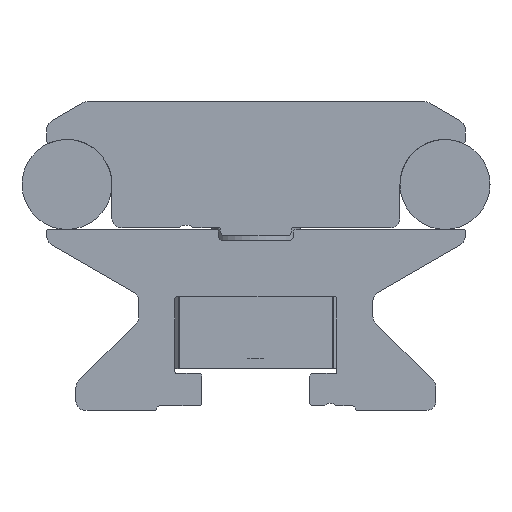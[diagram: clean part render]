
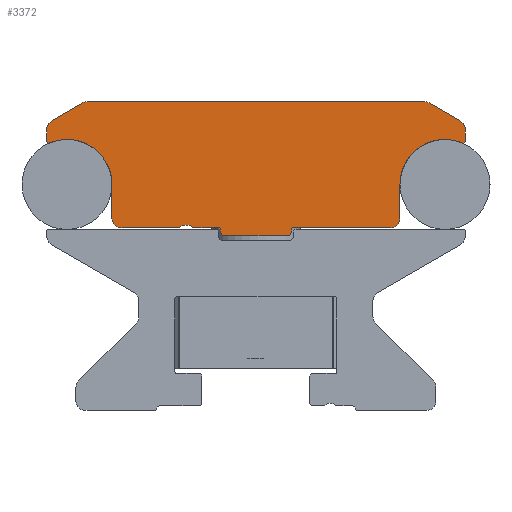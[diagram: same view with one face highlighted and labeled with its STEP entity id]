
A CAD part, left-side view. The second image highlights one B-rep face of the part: STEP entity #3372.
In plain terms, the highlighted planar face has unit normal (-1, 0, 0).
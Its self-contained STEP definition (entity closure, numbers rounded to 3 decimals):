
#116=CIRCLE('',#3649,0.5);
#119=CIRCLE('',#3654,0.5);
#121=CIRCLE('',#3659,1.);
#130=CIRCLE('',#3670,1.);
#132=CIRCLE('',#3674,1.);
#134=CIRCLE('',#3678,0.2);
#136=CIRCLE('',#3681,5.);
#138=CIRCLE('',#3685,1.);
#140=CIRCLE('',#3689,1.);
#148=CIRCLE('',#3699,0.2);
#152=CIRCLE('',#3709,0.2);
#161=CIRCLE('',#3720,1.);
#163=CIRCLE('',#3724,5.);
#165=CIRCLE('',#3727,0.2);
#167=CIRCLE('',#3731,1.);
#745=ORIENTED_EDGE('',*,*,#1532,.T.);
#746=ORIENTED_EDGE('',*,*,#1543,.T.);
#747=ORIENTED_EDGE('',*,*,#1546,.T.);
#748=ORIENTED_EDGE('',*,*,#1549,.T.);
#749=ORIENTED_EDGE('',*,*,#1552,.T.);
#750=ORIENTED_EDGE('',*,*,#1555,.T.);
#751=ORIENTED_EDGE('',*,*,#1558,.T.);
#752=ORIENTED_EDGE('',*,*,#1561,.T.);
#753=ORIENTED_EDGE('',*,*,#1564,.T.);
#754=ORIENTED_EDGE('',*,*,#1567,.T.);
#755=ORIENTED_EDGE('',*,*,#1570,.T.);
#756=ORIENTED_EDGE('',*,*,#1573,.T.);
#757=ORIENTED_EDGE('',*,*,#1579,.T.);
#758=ORIENTED_EDGE('',*,*,#1585,.T.);
#759=ORIENTED_EDGE('',*,*,#1514,.T.);
#760=ORIENTED_EDGE('',*,*,#1517,.T.);
#761=ORIENTED_EDGE('',*,*,#1592,.T.);
#762=ORIENTED_EDGE('',*,*,#1523,.T.);
#763=ORIENTED_EDGE('',*,*,#1597,.T.);
#764=ORIENTED_EDGE('',*,*,#1600,.T.);
#765=ORIENTED_EDGE('',*,*,#1607,.T.);
#766=ORIENTED_EDGE('',*,*,#1613,.T.);
#767=ORIENTED_EDGE('',*,*,#1616,.T.);
#768=ORIENTED_EDGE('',*,*,#1619,.T.);
#769=ORIENTED_EDGE('',*,*,#1622,.T.);
#770=ORIENTED_EDGE('',*,*,#1625,.T.);
#771=ORIENTED_EDGE('',*,*,#1628,.T.);
#772=ORIENTED_EDGE('',*,*,#1630,.T.);
#1514=EDGE_CURVE('',#1963,#1966,#2273,.T.);
#1517=EDGE_CURVE('',#1966,#1968,#116,.T.);
#1523=EDGE_CURVE('',#1969,#1972,#119,.T.);
#1532=EDGE_CURVE('',#1980,#1979,#121,.T.);
#1543=EDGE_CURVE('',#1979,#1989,#2285,.T.);
#1546=EDGE_CURVE('',#1989,#1991,#130,.T.);
#1549=EDGE_CURVE('',#1991,#1993,#2289,.T.);
#1552=EDGE_CURVE('',#1993,#1995,#132,.T.);
#1555=EDGE_CURVE('',#1995,#1997,#2293,.T.);
#1558=EDGE_CURVE('',#1997,#1999,#134,.T.);
#1561=EDGE_CURVE('',#1999,#2001,#136,.T.);
#1564=EDGE_CURVE('',#2001,#2003,#2298,.T.);
#1567=EDGE_CURVE('',#2003,#2005,#138,.T.);
#1570=EDGE_CURVE('',#2005,#2007,#2302,.T.);
#1573=EDGE_CURVE('',#2007,#2009,#140,.T.);
#1579=EDGE_CURVE('',#2009,#2011,#2305,.T.);
#1585=EDGE_CURVE('',#2011,#1963,#148,.T.);
#1592=EDGE_CURVE('',#1968,#1969,#2310,.T.);
#1597=EDGE_CURVE('',#1972,#2015,#2313,.T.);
#1600=EDGE_CURVE('',#2015,#2017,#152,.T.);
#1607=EDGE_CURVE('',#2017,#2019,#2317,.T.);
#1613=EDGE_CURVE('',#2019,#2021,#161,.T.);
#1616=EDGE_CURVE('',#2021,#2023,#2321,.T.);
#1619=EDGE_CURVE('',#2023,#2025,#163,.T.);
#1622=EDGE_CURVE('',#2025,#2027,#165,.T.);
#1625=EDGE_CURVE('',#2027,#2029,#2326,.T.);
#1628=EDGE_CURVE('',#2029,#2031,#167,.T.);
#1630=EDGE_CURVE('',#2031,#1980,#2329,.T.);
#1963=VERTEX_POINT('',#5395);
#1966=VERTEX_POINT('',#5400);
#1968=VERTEX_POINT('',#5410);
#1969=VERTEX_POINT('',#5417);
#1972=VERTEX_POINT('',#5426);
#1979=VERTEX_POINT('',#5451);
#1980=VERTEX_POINT('',#5453);
#1989=VERTEX_POINT('',#5473);
#1991=VERTEX_POINT('',#5479);
#1993=VERTEX_POINT('',#5485);
#1995=VERTEX_POINT('',#5491);
#1997=VERTEX_POINT('',#5497);
#1999=VERTEX_POINT('',#5503);
#2001=VERTEX_POINT('',#5509);
#2003=VERTEX_POINT('',#5515);
#2005=VERTEX_POINT('',#5521);
#2007=VERTEX_POINT('',#5527);
#2009=VERTEX_POINT('',#5533);
#2011=VERTEX_POINT('',#5542);
#2015=VERTEX_POINT('',#5581);
#2017=VERTEX_POINT('',#5590);
#2019=VERTEX_POINT('',#5600);
#2021=VERTEX_POINT('',#5609);
#2023=VERTEX_POINT('',#5615);
#2025=VERTEX_POINT('',#5621);
#2027=VERTEX_POINT('',#5627);
#2029=VERTEX_POINT('',#5633);
#2031=VERTEX_POINT('',#5639);
#2273=LINE('',#5401,#2551);
#2285=LINE('',#5474,#2563);
#2289=LINE('',#5486,#2567);
#2293=LINE('',#5498,#2571);
#2298=LINE('',#5516,#2576);
#2302=LINE('',#5528,#2580);
#2305=LINE('',#5543,#2583);
#2310=LINE('',#5569,#2588);
#2313=LINE('',#5582,#2591);
#2317=LINE('',#5601,#2595);
#2321=LINE('',#5616,#2599);
#2326=LINE('',#5634,#2604);
#2329=LINE('',#5643,#2607);
#2551=VECTOR('',#4143,1000.);
#2563=VECTOR('',#4195,1000.);
#2567=VECTOR('',#4207,1000.);
#2571=VECTOR('',#4219,1000.);
#2576=VECTOR('',#4238,1000.);
#2580=VECTOR('',#4250,1000.);
#2583=VECTOR('',#4269,1000.);
#2588=VECTOR('',#4294,1000.);
#2591=VECTOR('',#4303,1000.);
#2595=VECTOR('',#4321,1000.);
#2599=VECTOR('',#4339,1000.);
#2604=VECTOR('',#4358,1000.);
#2607=VECTOR('',#4369,1000.);
#2832=EDGE_LOOP('',(#745,#746,#747,#748,#749,#750,#751,#752,#753,#754,#755,
#756,#757,#758,#759,#760,#761,#762,#763,#764,#765,#766,#767,#768,#769,#770,
#771,#772));
#3060=FACE_BOUND('',#2832,.T.);
#3238=PLANE('',#3733);
#3372=ADVANCED_FACE('',(#3060),#3238,.T.);
#3649=AXIS2_PLACEMENT_3D('',#5411,#4147,#4148);
#3654=AXIS2_PLACEMENT_3D('',#5427,#4159,#4160);
#3659=AXIS2_PLACEMENT_3D('',#5452,#4174,#4175);
#3670=AXIS2_PLACEMENT_3D('',#5480,#4201,#4202);
#3674=AXIS2_PLACEMENT_3D('',#5492,#4213,#4214);
#3678=AXIS2_PLACEMENT_3D('',#5504,#4225,#4226);
#3681=AXIS2_PLACEMENT_3D('',#5510,#4232,#4233);
#3685=AXIS2_PLACEMENT_3D('',#5522,#4244,#4245);
#3689=AXIS2_PLACEMENT_3D('',#5534,#4256,#4257);
#3699=AXIS2_PLACEMENT_3D('',#5553,#4279,#4280);
#3709=AXIS2_PLACEMENT_3D('',#5591,#4307,#4308);
#3720=AXIS2_PLACEMENT_3D('',#5610,#4333,#4334);
#3724=AXIS2_PLACEMENT_3D('',#5622,#4345,#4346);
#3727=AXIS2_PLACEMENT_3D('',#5628,#4352,#4353);
#3731=AXIS2_PLACEMENT_3D('',#5640,#4364,#4365);
#3733=AXIS2_PLACEMENT_3D('',#5644,#4370,#4371);
#4143=DIRECTION('',(0.,0.,-1.));
#4147=DIRECTION('',(-1.,0.,0.));
#4148=DIRECTION('',(0.,-1.,0.));
#4159=DIRECTION('',(-1.,0.,0.));
#4160=DIRECTION('',(0.,1.,0.));
#4174=DIRECTION('',(-1.,0.,0.));
#4175=DIRECTION('',(0.,1.,0.));
#4195=DIRECTION('',(0.,1.,0.));
#4201=DIRECTION('',(-1.,0.,0.));
#4202=DIRECTION('',(0.,1.,0.));
#4207=DIRECTION('',(0.,0.866,-0.5));
#4213=DIRECTION('',(-1.,0.,0.));
#4214=DIRECTION('',(0.,-1.,0.));
#4219=DIRECTION('',(0.,0.,-1.));
#4225=DIRECTION('',(-1.,0.,0.));
#4226=DIRECTION('',(0.,-1.,0.));
#4232=DIRECTION('',(1.,0.,0.));
#4233=DIRECTION('',(0.,1.,0.));
#4238=DIRECTION('',(0.,0.,-1.));
#4244=DIRECTION('',(-1.,0.,0.));
#4245=DIRECTION('',(0.,-1.,0.));
#4250=DIRECTION('',(0.,-1.,0.));
#4256=DIRECTION('',(1.,0.,0.));
#4257=DIRECTION('',(0.,1.,0.));
#4269=DIRECTION('',(0.,-1.,0.));
#4279=DIRECTION('',(1.,0.,0.));
#4280=DIRECTION('',(0.,1.,0.));
#4294=DIRECTION('',(0.,-1.,0.));
#4303=DIRECTION('',(0.,0.,1.));
#4307=DIRECTION('',(1.,0.,0.));
#4308=DIRECTION('',(0.,1.,0.));
#4321=DIRECTION('',(0.,-1.,0.));
#4333=DIRECTION('',(-1.,0.,0.));
#4334=DIRECTION('',(0.,1.,0.));
#4339=DIRECTION('',(0.,0.,1.));
#4345=DIRECTION('',(1.,0.,0.));
#4346=DIRECTION('',(0.,1.,0.));
#4352=DIRECTION('',(-1.,0.,0.));
#4353=DIRECTION('',(0.,1.,0.));
#4358=DIRECTION('',(0.,0.,1.));
#4364=DIRECTION('',(-1.,0.,0.));
#4365=DIRECTION('',(0.,1.,0.));
#4369=DIRECTION('',(0.,0.866,0.5));
#4370=DIRECTION('',(-1.,0.,0.));
#4371=DIRECTION('',(0.,-1.,0.));
#5395=CARTESIAN_POINT('',(-900.,153.34,114.944));
#5400=CARTESIAN_POINT('',(-900.,153.34,114.744));
#5401=CARTESIAN_POINT('',(-900.,153.34,114.944));
#5410=CARTESIAN_POINT('',(-900.,152.84,114.244));
#5411=CARTESIAN_POINT('',(-900.,152.84,114.744));
#5417=CARTESIAN_POINT('',(-900.,145.94,114.244));
#5426=CARTESIAN_POINT('',(-900.,145.44,114.744));
#5427=CARTESIAN_POINT('',(-900.,145.94,114.744));
#5451=CARTESIAN_POINT('',(-900.,130.64,129.144));
#5452=CARTESIAN_POINT('',(-900.,130.64,128.144));
#5453=CARTESIAN_POINT('',(-900.,130.14,129.01));
#5473=CARTESIAN_POINT('',(-900.,168.14,129.144));
#5474=CARTESIAN_POINT('',(-900.,130.64,129.144));
#5479=CARTESIAN_POINT('',(-900.,168.64,129.01));
#5480=CARTESIAN_POINT('',(-900.,168.14,128.144));
#5485=CARTESIAN_POINT('',(-900.,172.14,126.989));
#5486=CARTESIAN_POINT('',(-900.,168.64,129.01));
#5491=CARTESIAN_POINT('',(-900.,172.64,126.123));
#5492=CARTESIAN_POINT('',(-900.,171.64,126.123));
#5497=CARTESIAN_POINT('',(-900.,172.64,124.723));
#5498=CARTESIAN_POINT('',(-900.,172.64,126.123));
#5503=CARTESIAN_POINT('',(-900.,172.361,124.539));
#5504=CARTESIAN_POINT('',(-900.,172.44,124.723));
#5509=CARTESIAN_POINT('',(-900.,165.39,119.944));
#5510=CARTESIAN_POINT('',(-900.,170.39,119.944));
#5515=CARTESIAN_POINT('',(-900.,165.39,116.144));
#5516=CARTESIAN_POINT('',(-900.,165.39,119.944));
#5521=CARTESIAN_POINT('',(-900.,164.39,115.144));
#5522=CARTESIAN_POINT('',(-900.,164.39,116.144));
#5527=CARTESIAN_POINT('',(-900.,157.854,115.144));
#5528=CARTESIAN_POINT('',(-900.,164.39,115.144));
#5533=CARTESIAN_POINT('',(-900.,156.426,115.144));
#5534=CARTESIAN_POINT('',(-900.,157.14,114.444));
#5542=CARTESIAN_POINT('',(-900.,153.54,115.144));
#5543=CARTESIAN_POINT('',(-900.,156.426,115.144));
#5553=CARTESIAN_POINT('',(-900.,153.54,114.944));
#5569=CARTESIAN_POINT('',(-900.,152.84,114.244));
#5581=CARTESIAN_POINT('',(-900.,145.44,114.944));
#5582=CARTESIAN_POINT('',(-900.,145.44,114.744));
#5590=CARTESIAN_POINT('',(-900.,145.24,115.144));
#5591=CARTESIAN_POINT('',(-900.,145.24,114.944));
#5600=CARTESIAN_POINT('',(-900.,134.39,115.144));
#5601=CARTESIAN_POINT('',(-900.,145.24,115.144));
#5609=CARTESIAN_POINT('',(-900.,133.39,116.144));
#5610=CARTESIAN_POINT('',(-900.,134.39,116.144));
#5615=CARTESIAN_POINT('',(-900.,133.39,119.944));
#5616=CARTESIAN_POINT('',(-900.,133.39,116.144));
#5621=CARTESIAN_POINT('',(-900.,126.419,124.539));
#5622=CARTESIAN_POINT('',(-900.,128.39,119.944));
#5627=CARTESIAN_POINT('',(-900.,126.14,124.723));
#5628=CARTESIAN_POINT('',(-900.,126.34,124.723));
#5633=CARTESIAN_POINT('',(-900.,126.14,126.123));
#5634=CARTESIAN_POINT('',(-900.,126.14,124.723));
#5639=CARTESIAN_POINT('',(-900.,126.64,126.989));
#5640=CARTESIAN_POINT('',(-900.,127.14,126.123));
#5643=CARTESIAN_POINT('',(-900.,126.64,126.989));
#5644=CARTESIAN_POINT('',(-900.,130.64,128.144));
